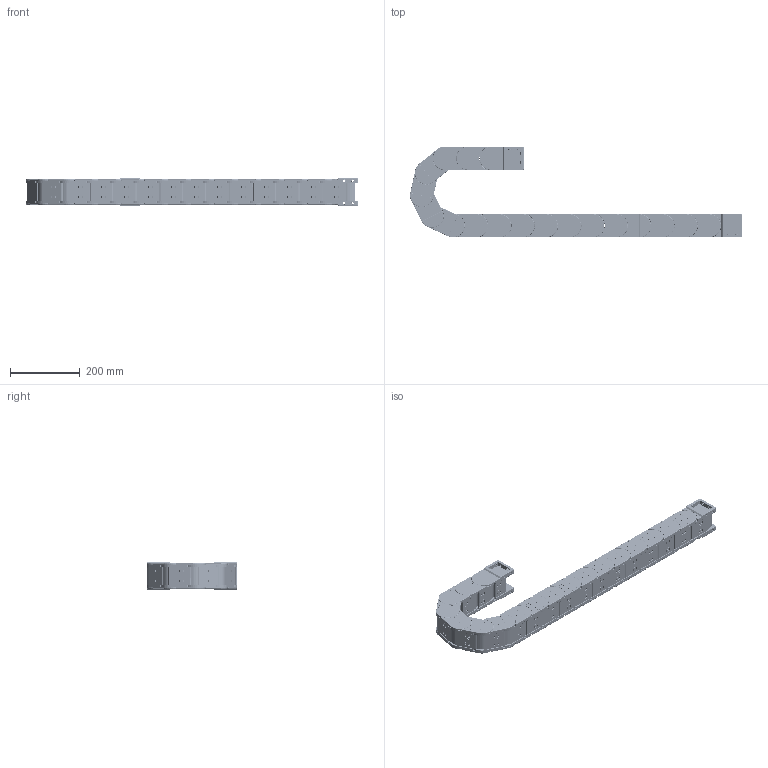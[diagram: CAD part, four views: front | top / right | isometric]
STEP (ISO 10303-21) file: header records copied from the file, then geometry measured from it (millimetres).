
FILE_DESCRIPTION (( 'STEP AP214' ), '1' );
FILE_NAME ('J45F.1.50S-3D賦凳芞.STEP', '2019-01-09T08:30:22', ( 'Sky123.Org' ), ( 'Sky123.Org' ), 'SwSTEP 2.0', 'SolidWorks 2017', '' );
FILE_SCHEMA (( 'AUTOMOTIVE_DESIGN' ));
Length unit declared in the file: millimetre
Products named in the file (11): 5-N45X100-源諉俋 - 萵掛; 45-N源諉芛俋; 5-N45X100-源諉囀 - 萵掛; 45-臏簽1; 45-N源諉芛囀; N45FX75-等誹1 - 萵掛; H35X75-FBP-W猾敕え; H35-J45-FBP-N猾敕え; 45-崝Ч翋极2; 45-崝Ч翋极1; J45F.1.50S-3D賦凳芞
Assembly tree (55 placements, depth 3):
  J45F.1.50S-3D賦凳芞
    N45FX75-等誹1 - 萵掛  x17
      45-崝Ч翋极1
      45-崝Ч翋极2
      H35-J45-FBP-N猾敕え
      H35X75-FBP-W猾敕え
    5-N45X100-源諉囀 - 萵掛
      45-N源諉芛囀  x2
      45-臏簽1  x12
      H35-J45-FBP-N猾敕え
      H35X75-FBP-W猾敕え
    5-N45X100-源諉俋 - 萵掛
      45-N源諉芛俋  x2
      45-臏簽1  x12
      H35-J45-FBP-N猾敕え
      H35X75-FBP-W猾敕え
Bounding box: 954.91 x 261 x 79 mm (x, y, z)
Volume: 2418933.5 mm3; surface area: 1233480.5 mm2
Topology: 100 solids, 100 shells, 23329 faces, 63191 edges, 39614 vertices
Faces by surface type: plane 12592, bspline 5004, cylinder 4977, torus 748, sphere 8
Entity records: 55392 total; most frequent: CARTESIAN_POINT 19957, ORIENTED_EDGE 7662, DIRECTION 6605, EDGE_CURVE 3831, LINE 2491, VECTOR 2491, VERTEX_POINT 2452, AXIS2_PLACEMENT_3D 2057
